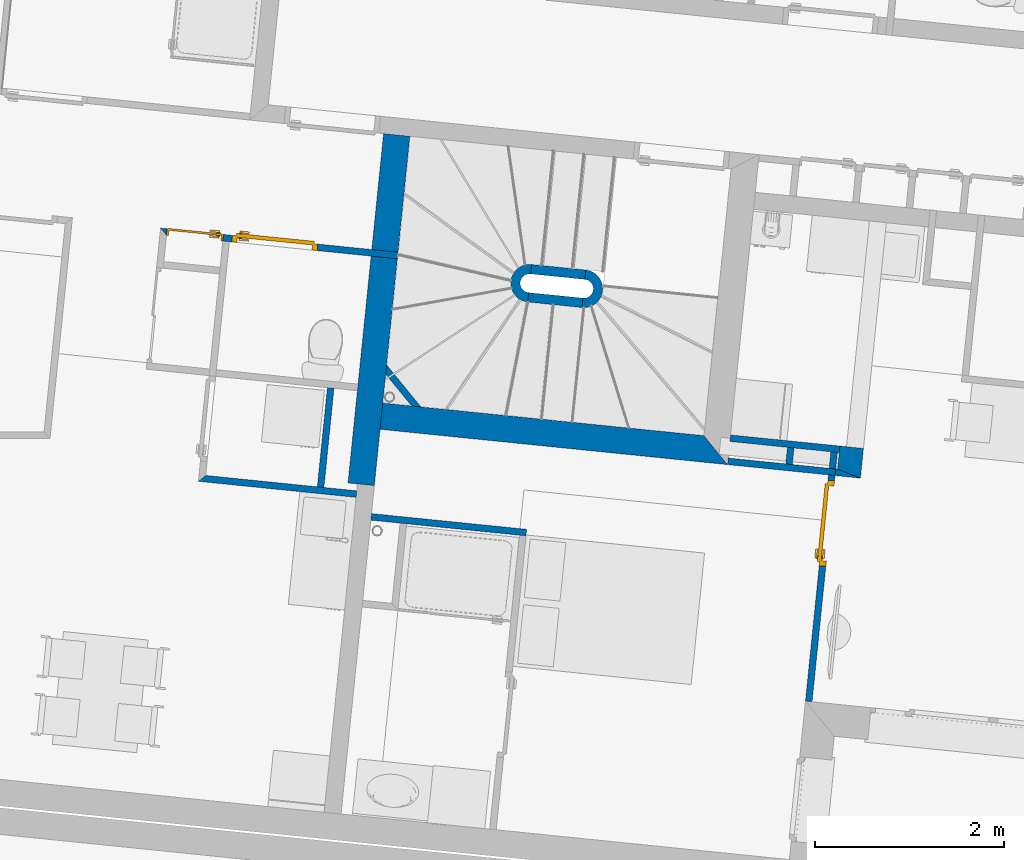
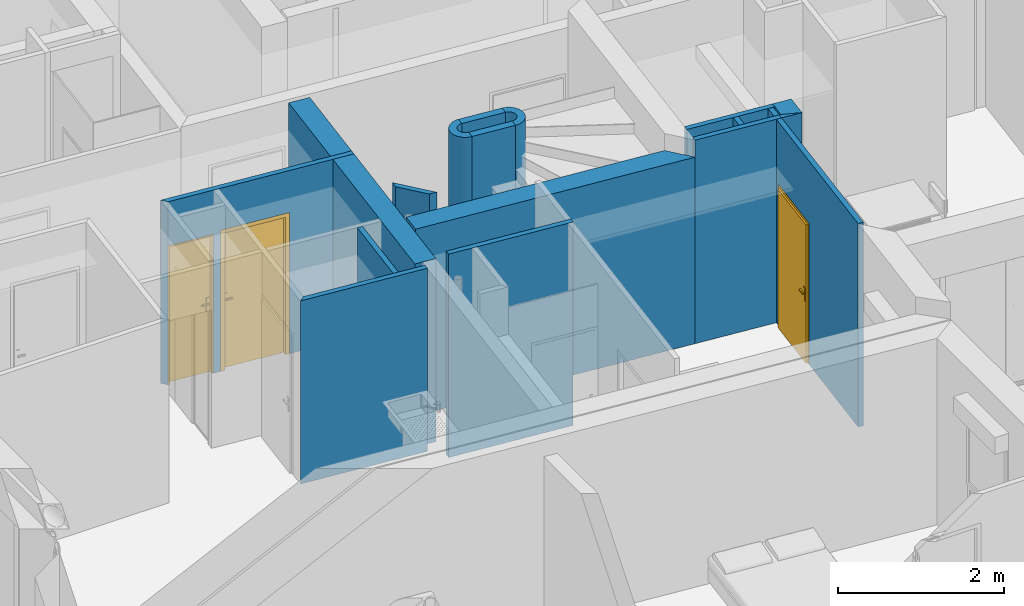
# One storey, part 50 of 164: 17 walls, 3 doors, 3 openings.
"""IFC2X3 building model written with IfcOpenShell, lengths in millimetres."""

from ifc_helpers import new_model, entity, si_unit, converted_unit, derived_unit, money_unit, point, direction, frame, frame_2d, origin_with_axes, origin_2d_with_axis, place, context, subcontext, project, spatial, polyline, circle_curve, parameter, trimmed, segment, composite_curve, rectangle, outline, extrude, faceted_brep, source, transform, mapped, material, layer, layer_set, layer_usage, type_object, element, fill, save


model = new_model("IFC2X3")

# Units and contexts
model_context = context("Model", 3, precision=0.01, world=origin_with_axes(), true_north=direction((0.0, 1.0)))
body_context = subcontext(model_context, "Body", "Model", "MODEL_VIEW")
ifc_project = project(units=[si_unit("LENGTHUNIT", "METRE", prefix="MILLI"), si_unit("AREAUNIT", "SQUARE_METRE"), si_unit("VOLUMEUNIT", "CUBIC_METRE"), converted_unit("PLANEANGLEUNIT", "DEGREE", entity("IfcPlaneAngleMeasure", 0.0174532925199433), si_unit("PLANEANGLEUNIT", "RADIAN"), dimensions=[0, 0, 0, 0, 0, 0, 0]), money_unit("USD"), converted_unit("TIMEUNIT", "Year", entity("IfcTimeMeasure", 31557600.0), si_unit("TIMEUNIT", "SECOND"), dimensions=[0, 0, 1, 0, 0, 0, 0]), si_unit("MASSUNIT", "GRAM", prefix="KILO"), si_unit("THERMODYNAMICTEMPERATUREUNIT", "DEGREE_CELSIUS"), si_unit("LUMINOUSINTENSITYUNIT", "LUMEN"), si_unit("ENERGYUNIT", "JOULE", prefix="MEGA"), derived_unit("THERMALCONDUCTANCEUNIT", [(si_unit("POWERUNIT", "WATT"), 1), (si_unit("LENGTHUNIT", "METRE"), -1), (si_unit("THERMODYNAMICTEMPERATUREUNIT", "KELVIN"), -1)]), derived_unit("SPECIFICHEATCAPACITYUNIT", [(si_unit("ENERGYUNIT", "JOULE"), 1), (si_unit("MASSUNIT", "GRAM", prefix="KILO"), -1), (si_unit("THERMODYNAMICTEMPERATUREUNIT", "KELVIN"), -1)]), derived_unit("MASSDENSITYUNIT", [(si_unit("MASSUNIT", "GRAM", prefix="KILO"), 1), (si_unit("VOLUMEUNIT", "CUBIC_METRE"), -1)])], contexts=[model_context])

# Site, building, storey
site_placement = place(None, origin_with_axes())
site = spatial("IfcSite", under=ifc_project, at=site_placement, Name="Site", CompositionType="ELEMENT")
building_placement = place(site_placement, origin_with_axes())
building = spatial("IfcBuilding", under=site, at=building_placement, Name="Bâtiment", CompositionType="ELEMENT")
storey_placement = place(building_placement, frame((0.0, 0.0, 5750.0), z_axis=(0.0, 0.0, 1.0), x_axis=(1.0, 0.0, 0.0)))
storey = spatial("IfcBuildingStorey", under=building, at=storey_placement, Name="Etage1", CompositionType="ELEMENT", Elevation=5750.0)

# Walls
ifc_material_1 = material(Name="Parpaing 314940890")
ifc_layer_1 = layer(ifc_material_1, 250.0, ventilated="UNKNOWN")
ifc_layer_set_1 = layer_set([ifc_layer_1], Name="Beton  25")
ifc_layer_usage_1 = layer_usage(ifc_layer_set_1, "AXIS2", "NEGATIVE", 0.0)
wall_type_1 = type_object("IfcWallType", Name="Beton  25 250", PredefinedType="NOTDEFINED")
wall_1_placement = place(storey_placement, frame((2230130.028191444, -617343.1612765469, 0.0), z_axis=(0.0, 0.0, 1.0), x_axis=(-0.1011032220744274, -0.9948759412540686, 0.0)))
element("IfcWallStandardCase", 1, at=wall_1_placement, inside=storey, type_object=wall_type_1, material=ifc_layer_usage_1, Name="Mur-142", context=body_context, shape_type="SweptSolid", body=[
    extrude(outline(polyline([(0.0, -250.0), (246.1922032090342, -250.0), (316.1922032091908, 0.0), (0.0, 0.0), (0.0, -250.0)])), origin_with_axes(), (0.0, 0.0, 1.0), 3000.0),
])
ifc_material_2 = material(Name="Hachure solide 268963992")
ifc_layer_2 = layer(ifc_material_2, 70.0, ventilated="UNKNOWN")
ifc_layer_set_2 = layer_set([ifc_layer_2], Name="Cloison 70 0826278243")
ifc_layer_usage_2 = layer_usage(ifc_layer_set_2, "AXIS2", "POSITIVE", 0.0)
wall_type_2 = type_object("IfcWallType", Name="Cloison 70 0826278243 70", PredefinedType="NOTDEFINED")
wall_2_placement = place(storey_placement, frame((2228690.451992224, -617514.6866595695, 0.0), z_axis=(0.0, 0.0, 1.0), x_axis=(0.9948759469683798, -0.101103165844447, 0.0)))
element("IfcWallStandardCase", 2, at=wall_2_placement, inside=storey, type_object=wall_type_2, material=ifc_layer_usage_2, Name="Mur-152", context=body_context, shape_type="SweptSolid", body=[
    extrude(outline(polyline([(0.0, 0.0), (1164.857957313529, 0.0), (1164.857957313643, 70.00000000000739), (1.13686837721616e-10, 70.00000000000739), (0.0, 0.0)])), origin_with_axes(), (0.0, 0.0, 1.0), 3000.0),
])
ifc_layer_usage_3 = layer_usage(ifc_layer_set_2, "AXIS2", "POSITIVE", -70.0)
wall_3_placement = place(storey_placement, frame((2224527.449298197, -616636.3249597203, 0.0), z_axis=(0.0, 0.0, 1.0), x_axis=(-0.1011032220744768, -0.9948759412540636, 0.0)))
element("IfcWallStandardCase", 3, at=wall_3_placement, inside=storey, type_object=wall_type_2, material=ifc_layer_usage_3, Name="Mur-149", context=body_context, shape_type="SweptSolid", body=[
    extrude(outline(polyline([(69.99999999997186, -70.00000000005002), (1126.143390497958, -70.00000000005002), (1126.143390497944, 0.0), (69.99999999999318, 0.0), (69.99999999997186, -70.00000000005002)])), origin_with_axes(), (0.0, 0.0, 1.0), 2700.0),
])
ifc_layer_usage_4 = layer_usage(ifc_layer_set_2, "AXIS2", "NEGATIVE", 70.0)
wall_4_placement = place(storey_placement, frame((2223153.262476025, -617698.9787351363, 0.0), z_axis=(0.0, 0.0, 1.0), x_axis=(0.9948759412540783, -0.1011032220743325, 0.0)))
element("IfcWallStandardCase", 4, at=wall_4_placement, inside=storey, type_object=wall_type_2, material=ifc_layer_usage_4, Name="Mur-149", context=body_context, shape_type="SweptSolid", body=[
    extrude(outline(polyline([(-69.99999999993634, 0.0), (1610.000000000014, 0.0), (1610.000000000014, 69.99999999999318), (2.138676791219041e-06, 70.00000000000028), (-69.99999999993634, 0.0)])), origin_with_axes(), (0.0, 0.0, 1.0), 2700.0),
])
ifc_layer_usage_5 = layer_usage(ifc_layer_set_2, "AXIS2", "POSITIVE", 0.0)
wall_5_placement = place(storey_placement, frame((2229759.717069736, -617623.3495332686, 0.0), z_axis=(0.0, 0.0, 1.0), x_axis=(0.994875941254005, -0.1011032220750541, 0.0)))
element("IfcWallStandardCase", 5, at=wall_5_placement, inside=storey, type_object=wall_type_2, material=ifc_layer_usage_5, Name="Mur-152", context=body_context, shape_type="SweptSolid", body=[
    extrude(outline(polyline([(70.00000004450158, 0.0), (340.0856902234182, 0.0), (90.0856902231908, 70.00000000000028), (69.99751002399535, 69.99999999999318), (70.00000004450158, 0.0)])), origin_with_axes(), (0.0, 0.0, 1.0), 3000.0),
])
ifc_layer_usage_6 = layer_usage(ifc_layer_set_2, "AXIS2", "POSITIVE", -70.0)
wall_6_placement = place(storey_placement, frame((2226553.782294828, -618269.6967431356, 0.0), z_axis=(0.0, 0.0, 1.0), x_axis=(-0.9949024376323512, 0.100842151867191, 0.0)))
element("IfcWallStandardCase", 6, at=wall_6_placement, inside=storey, type_object=wall_type_2, material=ifc_layer_usage_6, Name="Mur-149", context=body_context, shape_type="SweptSolid", body=[
    extrude(outline(polyline([(-1.13686837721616e-10, -70.00000000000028), (1651.695674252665, -70.0000000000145), (1651.695674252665, 0.0), (0.0, 0.0), (-1.13686837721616e-10, -70.00000000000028)])), origin_with_axes(), (0.0, 0.0, 1.0), 3000.0),
])

# Wall, opening, door
ifc_layer_usage_7 = layer_usage(ifc_layer_set_2, "AXIS2", "POSITIVE", 0.0)
wall_7_placement = place(storey_placement, frame((2229784.599182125, -617378.4179479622, 0.0), z_axis=(0.0, 0.0, 1.0), x_axis=(-0.1010678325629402, -0.9948795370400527, 0.0)))
wall_7 = element("IfcWallStandardCase", 7, at=wall_7_placement, inside=storey, type_object=wall_type_2, material=ifc_layer_usage_7, Name="Mur-153", context=body_context, shape_type="SweptSolid", body=[
    extrude(outline(polyline([(0.0, 0.0), (2655.134623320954, 0.0), (2655.134623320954, 70.00000000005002), (0.002490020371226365, 70.00000000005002), (0.0, 0.0)])), origin_with_axes(), (0.0, 0.0, 1.0), 3000.0),
])
opening_1_placement = place(wall_7_placement, frame((757.8726763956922, -2.273736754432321e-10, 0.0), z_axis=(0.0, 0.0, 1.0), x_axis=(1.0, 0.0, 0.0)))
opening_1 = element("IfcOpeningElement", 8, at=opening_1_placement, cuts=wall_7, Name="Por-279", context=body_context, shape_type="SweptSolid", body=[
    extrude(rectangle(XDim=910.0, YDim=2080.0, at=origin_2d_with_axis()), frame((0.0, 70.00000000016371, 1040.0), z_axis=(0.0, -1.0, 0.0), x_axis=(-1.0, 0.0, 0.0)), (0.0, 0.0, 1.0), 140.0),
])
door_style = type_object("IfcDoorStyle", Name="Porte_1v", ConstructionType="NOTDEFINED", OperationType="NOTDEFINED", ParameterTakesPrecedence=False, Sizeable=False)
shared_shape_1 = source(origin_with_axes(), body_context, "Body", "Brep", [
    faceted_brep([(455.0, 0.0, 0.0), (415.0000000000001, 0.0, 0.0), (415.0000000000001, 0.0, 2040.0), (-415.0000000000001, 0.0, 2040.0), (-415.0000000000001, 0.0, 0.0), (-455.0, 0.0, 0.0), (-455.0, 0.0, 2080.0), (455.0, 0.0, 2080.0), (455.0, -70.0, 0.0), (400.0, -70.0, 0.0), (400.0, -15.0, 0.0), (415.0000000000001, -15.0, 0.0), (415.0000000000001, -15.0, 2040.0), (-415.0000000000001, -15.0, 2040.0), (-415.0000000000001, -15.0, 0.0), (-400.0, -15.0, 0.0), (-400.0, -70.0, 0.0), (-455.0, -70.0, 0.0), (-455.0, -70.0, 2080.0), (455.0, -70.0, 2080.0), (-400.0, -70.0, 2025.0), (400.0, -70.0, 2025.0), (400.0, -15.0, 2025.0), (-400.0, -15.0, 2025.0)], [[[0, 1, 2, 3, 4, 5, 6, 7]], [[0, 8, 9, 10, 11, 1]], [[1, 11, 12, 2]], [[2, 12, 13, 3]], [[3, 13, 14, 4]], [[5, 4, 14, 15, 16, 17]], [[18, 6, 5, 17]], [[19, 7, 6, 18]], [[8, 0, 7, 19]], [[9, 8, 19, 18, 17, 16, 20, 21]], [[10, 9, 21, 22]], [[11, 10, 22, 23, 15, 14, 13, 12]], [[23, 20, 16, 15]], [[22, 21, 20, 23]]]),
    faceted_brep([(-350.0000000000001, -15.0, 900.0), (-390.0, -15.0, 900.0), (-390.0, -15.0, 1100.0), (-350.0000000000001, -15.0, 1100.0), (-350.0000000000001, -25.0, 900.0), (-390.0, -25.0, 900.0), (-390.0, -25.0, 1100.0), (-350.0000000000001, -25.0, 1100.0)], [[[0, 1, 2, 3]], [[1, 0, 4, 5]], [[2, 1, 5, 6]], [[3, 2, 6, 7]], [[0, 3, 7, 4]], [[5, 4, 7, 6]]]),
    faceted_brep([(-280.0, -25.0, 1000.0), (-380.0, -25.0, 1000.0), (-380.0, -25.0, 1020.0), (-280.0, -25.0, 1020.0), (-280.0, -45.0, 1000.0), (-380.0, -45.0, 1000.0), (-380.0, -45.0, 1020.0), (-280.0, -45.0, 1020.0)], [[[0, 1, 2, 3]], [[1, 0, 4, 5]], [[2, 1, 5, 6]], [[3, 2, 6, 7]], [[0, 3, 7, 4]], [[5, 4, 7, 6]]]),
    faceted_brep([(-350.0000000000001, 35.0, 900.0), (-390.0, 35.0, 900.0), (-390.0, 35.0, 1100.0), (-350.0000000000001, 35.0, 1100.0), (-350.0000000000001, 25.0, 900.0), (-390.0, 25.0, 900.0), (-390.0, 25.0, 1100.0), (-350.0000000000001, 25.0, 1100.0)], [[[0, 1, 2, 3]], [[1, 0, 4, 5]], [[2, 1, 5, 6]], [[3, 2, 6, 7]], [[0, 3, 7, 4]], [[5, 4, 7, 6]]]),
    faceted_brep([(-280.0, 55.00000000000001, 1000.0), (-380.0, 55.00000000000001, 1000.0), (-380.0, 55.00000000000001, 1020.0), (-280.0, 55.00000000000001, 1020.0), (-280.0, 35.0, 1000.0), (-380.0, 35.0, 1000.0), (-380.0, 35.0, 1020.0), (-280.0, 35.0, 1020.0)], [[[0, 1, 2, 3]], [[1, 0, 4, 5]], [[2, 1, 5, 6]], [[3, 2, 6, 7]], [[0, 3, 7, 4]], [[5, 4, 7, 6]]]),
    faceted_brep([(-415.0000000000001, 25.0, 0.0), (415.0000000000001, 25.0, 0.0), (415.0000000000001, -15.0, 0.0), (-415.0000000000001, -15.0, 0.0), (-415.0000000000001, 25.0, 2040.0), (415.0000000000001, 25.0, 2040.0), (415.0000000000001, -15.0, 2040.0), (-415.0000000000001, -15.0, 2040.0)], [[[0, 1, 2, 3]], [[0, 4, 5, 1]], [[1, 5, 6, 2]], [[3, 2, 6, 7]], [[4, 0, 3, 7]], [[5, 4, 7, 6]]]),
])
door_1_placement = place(opening_1_placement, frame((415.0000000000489, 1.13686837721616e-10, 0.0), z_axis=(0.0, 0.0, 1.0), x_axis=(-1.0, 0.0, 0.0)))
door_1 = element("IfcDoor", 9, at=door_1_placement, inside=storey, type_object=door_style, Name="Por-279", OverallHeight=2040.0, OverallWidth=830.0, context=body_context, shape_type="MappedRepresentation", body=[
    mapped(shared_shape_1, transform((414.999999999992, 1.13686837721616e-10, 0.0))),
])
fill(opening_1, door_1)

# Walls
ifc_layer_usage_8 = layer_usage(ifc_layer_set_2, "AXIS2", "POSITIVE", 0.0)
wall_8_placement = place(storey_placement, frame((2228715.342857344, -617269.755897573, 0.0), z_axis=(0.0, 0.0, 1.0), x_axis=(0.9948759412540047, -0.1011032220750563, 0.0)))
element("IfcWallStandardCase", 10, at=wall_8_placement, inside=storey, type_object=wall_type_2, material=ifc_layer_usage_8, Name="Mur-152", context=body_context, shape_type="SweptSolid", body=[
    extrude(outline(polyline([(0.0, 0.0), (1164.857923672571, 0.0), (1164.857923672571, 70.00000000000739), (-1.13686837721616e-10, 70.00000000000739), (0.0, 0.0)])), origin_with_axes(), (0.0, 0.0, 1.0), 3000.0),
])
ifc_layer_usage_9 = layer_usage(ifc_layer_set_2, "AXIS2", "POSITIVE", 0.0)
wall_9_placement = place(storey_placement, frame((2229369.658906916, -617583.710310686, 0.0), z_axis=(0.0, 0.0, 1.0), x_axis=(0.1011032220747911, 0.9948759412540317, 0.0)))
element("IfcWallStandardCase", 11, at=wall_9_placement, inside=storey, type_object=wall_type_2, material=ifc_layer_usage_9, Name="Mur-152", context=body_context, shape_type="SweptSolid", body=[
    extrude(outline(polyline([(70.00000092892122, 0.0), (246.1922313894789, 0.0), (246.1922313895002, 69.99999999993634), (69.99999697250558, 70.00000000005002), (70.00000092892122, 0.0)])), origin_with_axes(), (0.0, 0.0, 1.0), 3000.0),
])

# Wall, openings, doors
ifc_layer_usage_10 = layer_usage(ifc_layer_set_2, "AXIS2", "NEGATIVE", 70.0)
wall_10_placement = place(storey_placement, frame((2225199.940594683, -615264.1967475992, 0.0), z_axis=(0.0, 0.0, 1.0), x_axis=(-0.9948759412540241, 0.1011032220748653, 0.0)))
wall_10 = element("IfcWallStandardCase", 12, at=wall_10_placement, inside=storey, type_object=wall_type_2, material=ifc_layer_usage_10, Name="Mur-149", context=body_context, shape_type="SweptSolid", body=[
    extrude(outline(polyline([(0.0, 0.0), (2530.026435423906, 0.0), (2460.026434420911, 70.00000000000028), (0.0, 70.00000000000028), (0.0, 0.0)])), origin_with_axes(), (0.0, 0.0, 1.0), 2700.0),
])
opening_2_placement = place(wall_10_placement, frame((1309.99999999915, 0.0, 0.0), z_axis=(0.0, 0.0, 1.0), x_axis=(1.0, 0.0, 0.0)))
opening_2 = element("IfcOpeningElement", 13, at=opening_2_placement, cuts=wall_10, Name="Por-281", context=body_context, shape_type="SweptSolid", body=[
    extrude(rectangle(XDim=910.0, YDim=2080.0, at=origin_2d_with_axis()), frame((-1.13686837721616e-10, 69.99999999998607, 1040.0), z_axis=(0.0, -1.0, 0.0), x_axis=(-1.0, 0.0, 0.0)), (0.0, 0.0, 1.0), 140.0),
])
opening_3_placement = place(wall_10_placement, frame((2160.026437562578, 0.0, 0.0), z_axis=(0.0, 0.0, 1.0), x_axis=(1.0, 0.0, 0.0)))
opening_3 = element("IfcOpeningElement", 14, at=opening_3_placement, cuts=wall_10, Name="Por-274", context=body_context, shape_type="SweptSolid", body=[
    extrude(rectangle(XDim=599.9999999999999, YDim=2050.0, at=origin_2d_with_axis()), frame((0.0, 70.00000000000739, 1025.0), z_axis=(0.0, 1.0, 0.0), x_axis=(1.0, 0.0, 0.0)), (0.0, 0.0, -1.0), 140.0),
])
door_2_placement = place(opening_2_placement, frame((415.0000000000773, 0.0, 0.0), z_axis=(0.0, 0.0, 1.0), x_axis=(-1.0, 0.0, 0.0)))
door_2 = element("IfcDoor", 15, at=door_2_placement, inside=storey, type_object=door_style, Name="Por-281", OverallHeight=2040.0, OverallWidth=830.0, context=body_context, shape_type="MappedRepresentation", body=[
    mapped(shared_shape_1, transform((415.0000000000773, 0.0, 0.0))),
])
fill(opening_2, door_2)
shared_shape_2 = source(origin_with_axes(), body_context, "Body", "Brep", [
    faceted_brep([(-300.0, 0.0, 0.0), (-300.0, 0.0, 2050.0), (300.0, 0.0, 2050.0), (300.0, 0.0, 0.0), (290.0, 0.0, 0.0), (290.0, 0.0, 2040.0), (-290.0, 0.0, 2040.0), (-290.0, 0.0, 0.0), (-300.0, -70.0, 0.0), (-300.0, -70.0, 2050.0), (300.0, -70.0, 2050.0), (300.0, -70.0, 0.0), (279.9999999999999, -70.0, 0.0), (279.9999999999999, -15.0, 0.0), (290.0, -15.0, 0.0), (290.0, -15.0, 2040.0), (-290.0, -15.0, 2040.0), (-290.0, -15.0, 0.0), (-279.9999999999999, -15.0, 0.0), (-279.9999999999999, -70.0, 0.0), (-279.9999999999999, -70.0, 2030.0), (279.9999999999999, -70.0, 2030.0), (279.9999999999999, -15.0, 2030.0), (-279.9999999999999, -15.0, 2030.0)], [[[0, 1, 2, 3, 4, 5, 6, 7]], [[8, 9, 1, 0]], [[9, 10, 2, 1]], [[10, 11, 3, 2]], [[3, 11, 12, 13, 14, 4]], [[5, 4, 14, 15]], [[6, 5, 15, 16]], [[7, 6, 16, 17]], [[0, 7, 17, 18, 19, 8]], [[19, 20, 21, 12, 11, 10, 9, 8]], [[22, 13, 12, 21]], [[17, 16, 15, 14, 13, 22, 23, 18]], [[18, 23, 20, 19]], [[23, 22, 21, 20]]]),
    faceted_brep([(224.9999999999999, -15.0, 900.0), (224.9999999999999, -15.0, 1100.0), (264.9999999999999, -15.0, 1100.0), (264.9999999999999, -15.0, 900.0), (224.9999999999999, -25.0, 900.0), (224.9999999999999, -25.0, 1100.0), (264.9999999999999, -25.0, 1100.0), (264.9999999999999, -25.0, 900.0)], [[[0, 1, 2, 3]], [[0, 4, 5, 1]], [[1, 5, 6, 2]], [[2, 6, 7, 3]], [[3, 7, 4, 0]], [[7, 6, 5, 4]]]),
    faceted_brep([(154.9999999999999, -25.0, 1000.0), (154.9999999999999, -25.0, 1020.0), (254.9999999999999, -25.0, 1020.0), (254.9999999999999, -25.0, 1000.0), (154.9999999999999, -45.0, 1000.0), (154.9999999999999, -45.0, 1020.0), (254.9999999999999, -45.0, 1020.0), (254.9999999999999, -45.0, 1000.0)], [[[0, 1, 2, 3]], [[0, 4, 5, 1]], [[1, 5, 6, 2]], [[2, 6, 7, 3]], [[3, 7, 4, 0]], [[7, 6, 5, 4]]]),
    faceted_brep([(224.9999999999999, 15.0, 900.0), (224.9999999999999, 15.0, 1100.0), (264.9999999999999, 15.0, 1100.0), (264.9999999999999, 15.0, 900.0), (224.9999999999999, 5.000000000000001, 900.0), (224.9999999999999, 5.000000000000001, 1100.0), (264.9999999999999, 5.000000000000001, 1100.0), (264.9999999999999, 5.000000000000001, 900.0)], [[[0, 1, 2, 3]], [[0, 4, 5, 1]], [[1, 5, 6, 2]], [[2, 6, 7, 3]], [[3, 7, 4, 0]], [[7, 6, 5, 4]]]),
    faceted_brep([(154.9999999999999, 35.0, 1000.0), (154.9999999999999, 35.0, 1020.0), (254.9999999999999, 35.0, 1020.0), (254.9999999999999, 35.0, 1000.0), (154.9999999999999, 15.0, 1000.0), (154.9999999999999, 15.0, 1020.0), (254.9999999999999, 15.0, 1020.0), (254.9999999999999, 15.0, 1000.0)], [[[0, 1, 2, 3]], [[0, 4, 5, 1]], [[1, 5, 6, 2]], [[2, 6, 7, 3]], [[3, 7, 4, 0]], [[7, 6, 5, 4]]]),
    faceted_brep([(290.0, 5.000000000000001, 0.0), (290.0, -15.0, 0.0), (-290.0, -15.0, 0.0), (-290.0, 5.000000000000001, 0.0), (290.0, 5.000000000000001, 2040.0), (290.0, -15.0, 2040.0), (-290.0, -15.0, 2040.0), (-290.0, 5.000000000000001, 2040.0)], [[[0, 1, 2, 3]], [[4, 5, 1, 0]], [[1, 5, 6, 2]], [[3, 2, 6, 7]], [[0, 3, 7, 4]], [[7, 6, 5, 4]]]),
])
door_3_placement = place(opening_3_placement, frame((290.0000000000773, 0.0, 0.0), z_axis=(0.0, 0.0, 1.0), x_axis=(-1.0, 0.0, 0.0)))
door_3 = element("IfcDoor", 16, at=door_3_placement, inside=storey, type_object=door_style, Name="Por-274", OverallHeight=2040.0, OverallWidth=580.0, context=body_context, shape_type="MappedRepresentation", body=[
    mapped(shared_shape_2, transform((290.0000000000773, 0.0, 0.0))),
])
fill(opening_3, door_3)

# Walls
ifc_material_3 = material(Name="Brique 1 268964100")
ifc_layer_3 = layer(ifc_material_3, 100.0, ventilated="UNKNOWN")
ifc_layer_set_3 = layer_set([ifc_layer_3], Name="Cloison 100 gaine 0826278243")
ifc_layer_usage_11 = layer_usage(ifc_layer_set_3, "AXIS2", "POSITIVE", 0.0)
wall_type_3 = type_object("IfcWallType", Name="Cloison 100 gaine 0826278243 100", PredefinedType="NOTDEFINED")
wall_11_placement = place(storey_placement, frame((2227188.682633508, -615452.4566067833, 0.0), z_axis=(0.0, 0.0, 1.0), x_axis=(-0.9948759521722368, 0.1011031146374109, 0.0)))
element("IfcWallStandardCase", 17, at=wall_11_placement, inside=storey, type_object=wall_type_3, material=ifc_layer_usage_11, Name="Mur-149", context=body_context, shape_type="SweptSolid", body=[
    extrude(outline(polyline([(0.0001021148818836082, 0.0), (578.4830907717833, 0.0), (578.4830907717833, 100.0000000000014), (0.0001021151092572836, 100.0000000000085), (0.0001021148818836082, 0.0)])), origin_with_axes(), (0.0, 0.0, 1.0), 2750.0),
])
ifc_layer_usage_12 = layer_usage(ifc_layer_set_3, "AXIS2", "POSITIVE", 0.0)
wall_12_placement = place(storey_placement, frame((2226572.739717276, -615791.7506338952, 0.0), z_axis=(0.0, 0.0, 1.0), x_axis=(0.9948759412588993, -0.1011032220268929, 0.0)))
element("IfcWallStandardCase", 18, at=wall_12_placement, inside=storey, type_object=wall_type_3, material=ifc_layer_usage_12, Name="Mur-149", context=body_context, shape_type="SweptSolid", body=[
    extrude(outline(polyline([(-2.273736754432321e-10, 0.0), (578.4829886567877, 0.0), (578.4829886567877, 99.99999999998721), (-2.273736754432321e-10, 99.99999999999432), (-2.273736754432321e-10, 0.0)])), origin_with_axes(), (0.0, 0.0, 1.0), 2750.0),
])
ifc_layer_usage_13 = layer_usage(ifc_layer_set_3, "AXIS2", "POSITIVE", 0.0)
wall_13_placement = place(storey_placement, frame((2227148.258605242, -615850.2371360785, 0.0), z_axis=(0.0, 0.0, 1.0), x_axis=(0.9948759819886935, -0.1011028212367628, 0.0)))
element("IfcWallStandardCase", 19, at=wall_13_placement, inside=storey, type_object=wall_type_3, material=ifc_layer_usage_13, Name="Mur-149", context=body_context, shape_type="SweptSolid", body=[
    extrude(outline(composite_curve([segment(trimmed(circle_curve(frame_2d((-1.078956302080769e-05, 199.9146077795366), x_axis=(-3.488833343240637e-07, -0.9999999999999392)), 199.9146077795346), [point((-8.053643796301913e-05, 0.0)), parameter(0.0)], [point((5.895731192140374e-05, 399.829215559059)), parameter(180.000006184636)], True, "CARTESIAN"), True, "CONTINUOUS"), segment(polyline([(5.895731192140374e-05, 399.829215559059), (3.210027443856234e-05, 299.8292155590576)]), True, "CONTINUOUS"), segment(trimmed(circle_curve(frame_2d((-2.758270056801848e-06, 199.9146077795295), x_axis=(-3.488833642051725e-07, -0.9999999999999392)), 99.91460777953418), [point((3.210027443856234e-05, 299.8292155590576)), parameter(180.0000061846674)], [point((-3.761681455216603e-05, 100.0000000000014)), parameter(0.0)], False, "CARTESIAN"), True, "CONTINUOUS"), segment(polyline([(-3.761681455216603e-05, 100.0000000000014), (-8.053643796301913e-05, 0.0)]), True, "CONTINUOUS")], self_intersect=False)), origin_with_axes(), (0.0, 0.0, 1.0), 2750.0),
])
ifc_layer_usage_14 = layer_usage(ifc_layer_set_3, "AXIS2", "POSITIVE", 0.0)
wall_14_placement = place(storey_placement, frame((2226613.163739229, -615393.970166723, 0.0), z_axis=(0.0, 0.0, 1.0), x_axis=(-0.9948759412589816, 0.1011032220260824, 0.0)))
element("IfcWallStandardCase", 20, at=wall_14_placement, inside=storey, type_object=wall_type_3, material=ifc_layer_usage_14, Name="Mur-149", context=body_context, shape_type="SweptSolid", body=[
    extrude(outline(composite_curve([segment(trimmed(circle_curve(frame_2d((5.521201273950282e-06, 199.9146077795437), x_axis=(5.39702898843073e-08, -0.9999999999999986)), 199.9146077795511), [point((1.631065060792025e-05, 0.0)), parameter(0.0)], [point((-5.268248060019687e-06, 399.8292155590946)), parameter(179.9999938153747)], True, "CARTESIAN"), True, "CONTINUOUS"), segment(polyline([(-5.268248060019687e-06, 399.8292155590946), (1.13686837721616e-10, 299.8292155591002)]), True, "CONTINUOUS"), segment(trimmed(circle_curve(frame_2d((5.392507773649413e-06, 199.9146077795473), x_axis=(5.397002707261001e-08, -0.9999999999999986)), 99.91460777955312), [point((1.13686837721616e-10, 299.8292155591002)), parameter(179.9999938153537)], [point((1.07849018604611e-05, 99.99999999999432)), parameter(0.0)], False, "CARTESIAN"), True, "CONTINUOUS"), segment(polyline([(1.07849018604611e-05, 99.99999999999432), (1.631065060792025e-05, 0.0)]), True, "CONTINUOUS")], self_intersect=False)), origin_with_axes(), (0.0, 0.0, 1.0), 2750.0),
])
ifc_material_4 = material(Name="Hachure solide 269229667")
ifc_layer_4 = layer(ifc_material_4, 70.0, ventilated="UNKNOWN")
ifc_layer_set_4 = layer_set([ifc_layer_4], Name="Cloison 70 0836576958")
ifc_layer_usage_15 = layer_usage(ifc_layer_set_4, "AXIS2", "NEGATIVE", 0.0)
wall_type_4 = type_object("IfcWallType", Name="Cloison 70 0836576958 70", PredefinedType="NOTDEFINED")
wall_15_placement = place(storey_placement, frame((2225342.902009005, -616893.0532180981, 0.0), z_axis=(0.0, 0.0, 1.0), x_axis=(-0.6319927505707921, 0.7749742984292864, 0.0)))
element("IfcWallStandardCase", 21, at=wall_15_placement, inside=storey, type_object=wall_type_4, material=ifc_layer_usage_15, Name="Mur-148", context=body_context, shape_type="SweptSolid", body=[
    extrude(outline(polyline([(-69.99996067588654, -69.99999999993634), (505.0369955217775, -69.99999999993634), (435.0733854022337, 0.0), (8.603137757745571e-06, 0.0), (-69.99996067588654, -69.99999999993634)])), origin_with_axes(), (0.0, 0.0, 1.0), 3000.0),
])
ifc_material_5 = material(Name="Parpaing 312445824")
ifc_layer_5 = layer(ifc_material_5, 180.0, ventilated="UNKNOWN")
ifc_material_6 = material(Name="Isolant styromousse 301821074")
ifc_layer_6 = layer(ifc_material_6, 100.0, ventilated="UNKNOWN")
ifc_layer_set_5 = layer_set([ifc_layer_5, ifc_layer_6], Name="isol int 18+10 0018356637")
ifc_layer_usage_16 = layer_usage(ifc_layer_set_5, "AXIS2", "NEGATIVE", 0.0)
wall_type_5 = type_object("IfcWallType", Name="isol int 18+10 0018356637 280", PredefinedType="NOTDEFINED")
wall_16_placement = place(storey_placement, frame((2225342.945027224, -613856.7430391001, 0.0), z_axis=(0.0, 0.0, 1.0), x_axis=(-0.1013618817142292, -0.9948496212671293, 0.0)))
element("IfcWallStandardCase", 22, at=wall_16_placement, inside=storey, type_object=wall_type_5, material=ifc_layer_usage_16, Name="Mur-142", context=body_context, shape_type="SweptSolid", body=[
    extrude(outline(polyline([(180.0728047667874, -279.9999999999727), (3900.82955931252, -280.0000000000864), (3900.755571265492, 0.0), (180.0000060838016, 0.0), (180.0728047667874, -279.9999999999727)])), origin_with_axes(), (0.0, 0.0, 1.0), 2700.0),
])
ifc_layer_usage_17 = layer_usage(ifc_layer_set_5, "AXIS2", "NEGATIVE", 0.0)
wall_17_placement = place(storey_placement, frame((2225036.755468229, -616861.941459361, 0.0), z_axis=(0.0, 0.0, 1.0), x_axis=(0.9948759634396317, -0.101103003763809, 0.0)))
element("IfcWallStandardCase", 23, at=wall_17_placement, inside=storey, type_object=wall_type_5, material=ifc_layer_usage_17, Name="Mur-142", context=body_context, shape_type="SweptSolid", body=[
    extrude(outline(polyline([(-0.07286012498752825, -280.0000000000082), (3701.157618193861, -280.0000000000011), (3421.157679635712, 0.0), (0.0, 0.0), (-0.07286012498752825, -280.0000000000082)])), origin_with_axes(), (0.0, 0.0, 1.0), 2750.0),
])

save(model, "model.ifc")
